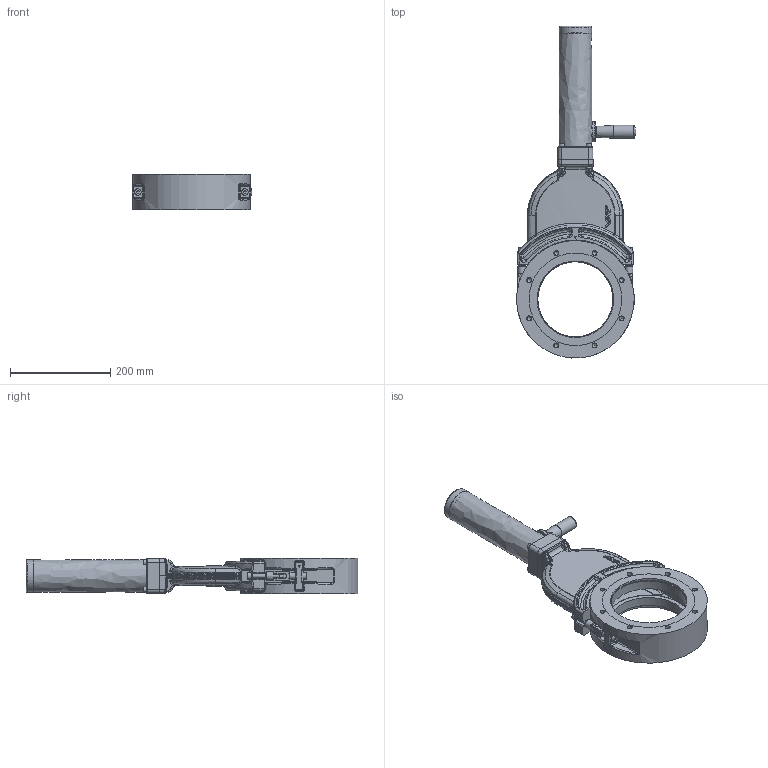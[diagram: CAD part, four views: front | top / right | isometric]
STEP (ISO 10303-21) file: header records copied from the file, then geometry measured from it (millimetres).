
FILE_DESCRIPTION((''),'2;1');
FILE_NAME('O:\MT\MT\Systeme\Cad\Datenexporte\www_vat_ch\221554.stp','2005-05-12T07:57:35',('User'),('SDRC'),'I-DEAS Master Series 9','UNIX','Yes');
FILE_SCHEMA(('CONFIG_CONTROL_DESIGN'));
Length unit declared in the file: millimetre
Assembly tree (33 placements, depth 0):
Bounding box: 239.5 x 663.79 x 70 mm (x, y, z)
Volume: 2557946 mm3; surface area: 549170.9 mm2
Topology: 71 solids, 71 shells, 1895 faces, 4303 edges, 2587 vertices
Faces by surface type: bspline 1895
Entity records: 67296 total; most frequent: CARTESIAN_POINT 41426, ORIENTED_EDGE 7718, EDGE_CURVE 3859, VERTEX_POINT 2351, EDGE_LOOP 1916, B_SPLINE_CURVE_WITH_KNOTS 1834, FACE_OUTER_BOUND 1707, ADVANCED_FACE 1707
